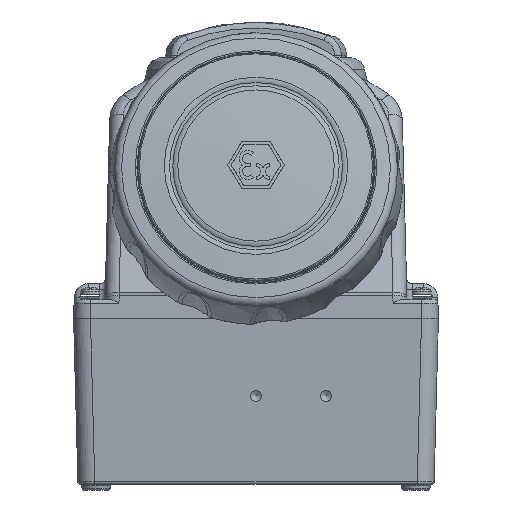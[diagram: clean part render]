
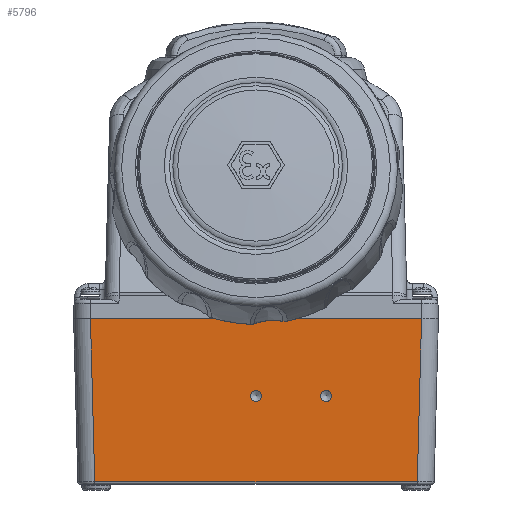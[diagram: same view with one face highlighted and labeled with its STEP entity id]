
A CAD part, front view. The second image highlights one B-rep face of the part: STEP entity #5796.
In plain terms, the highlighted planar face has unit normal (0, -1, -0.026).
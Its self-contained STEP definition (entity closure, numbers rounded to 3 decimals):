
#747=PLANE('',#14683);
#1118=LINE('',#20871,#1650);
#1137=LINE('',#21148,#1669);
#1139=LINE('',#21155,#1671);
#1160=LINE('',#21924,#1692);
#1650=VECTOR('',#15695,1.);
#1669=VECTOR('',#15738,1.);
#1671=VECTOR('',#15746,1.);
#1692=VECTOR('',#15893,1.);
#5581=FACE_BOUND('',#6903,.T.);
#5582=FACE_BOUND('',#6904,.T.);
#5583=FACE_BOUND('',#6905,.T.);
#5796=ADVANCED_FACE('',(#5581,#5582,#5583),#747,.F.);
#6903=EDGE_LOOP('',(#8793,#8794,#8795,#8796));
#6904=EDGE_LOOP('',(#8797));
#6905=EDGE_LOOP('',(#8798));
#8793=ORIENTED_EDGE('',*,*,#12536,.T.);
#8794=ORIENTED_EDGE('',*,*,#12540,.T.);
#8795=ORIENTED_EDGE('',*,*,#12494,.F.);
#8796=ORIENTED_EDGE('',*,*,#12649,.T.);
#8797=ORIENTED_EDGE('',*,*,#12650,.F.);
#8798=ORIENTED_EDGE('',*,*,#12651,.F.);
#11063=VERTEX_POINT('',#20870);
#11064=VERTEX_POINT('',#20872);
#11100=VERTEX_POINT('',#21145);
#11101=VERTEX_POINT('',#21147);
#11178=VERTEX_POINT('',#21926);
#11179=VERTEX_POINT('',#21928);
#12494=EDGE_CURVE('',#11063,#11064,#1118,.T.);
#12536=EDGE_CURVE('',#11100,#11101,#1137,.T.);
#12540=EDGE_CURVE('',#11101,#11064,#1139,.T.);
#12649=EDGE_CURVE('',#11063,#11100,#1160,.T.);
#12650=EDGE_CURVE('',#11178,#11178,#14119,.T.);
#12651=EDGE_CURVE('',#11179,#11179,#14120,.T.);
#14119=CIRCLE('',#14681,1.991);
#14120=CIRCLE('',#14682,1.991);
#14681=AXIS2_PLACEMENT_3D('',#21925,#15894,#15895);
#14682=AXIS2_PLACEMENT_3D('',#21927,#15896,#15897);
#14683=AXIS2_PLACEMENT_3D('',#21929,#15898,#15899);
#15695=DIRECTION('',(-0.026,0.026,-0.999));
#15738=DIRECTION('',(0.026,0.026,-0.999));
#15746=DIRECTION('',(1.,0.,0.));
#15893=DIRECTION('',(-1.,0.,0.));
#15894=DIRECTION('',(0.,-1.,-0.026));
#15895=DIRECTION('',(1.,0.,0.));
#15896=DIRECTION('',(0.,-1.,-0.026));
#15897=DIRECTION('',(1.,0.,0.));
#15898=DIRECTION('',(0.,1.,0.026));
#15899=DIRECTION('',(-1.,0.,0.));
#20870=CARTESIAN_POINT('',(59.002,-130.,0.));
#20871=CARTESIAN_POINT('',(59.002,-130.,0.));
#20872=CARTESIAN_POINT('',(57.483,-128.481,-58.026));
#21145=CARTESIAN_POINT('',(-59.002,-130.,0.));
#21147=CARTESIAN_POINT('',(-57.483,-128.481,-58.026));
#21148=CARTESIAN_POINT('',(-59.002,-130.,0.));
#21155=CARTESIAN_POINT('',(-57.483,-128.481,-58.026));
#21924=CARTESIAN_POINT('',(-59.002,-130.,0.));
#21925=CARTESIAN_POINT('',(0.,-129.279,-27.515));
#21926=CARTESIAN_POINT('',(1.991,-129.279,-27.515));
#21927=CARTESIAN_POINT('',(25.,-129.279,-27.515));
#21928=CARTESIAN_POINT('',(26.991,-129.279,-27.515));
#21929=CARTESIAN_POINT('',(-65.,-130.,0.));
